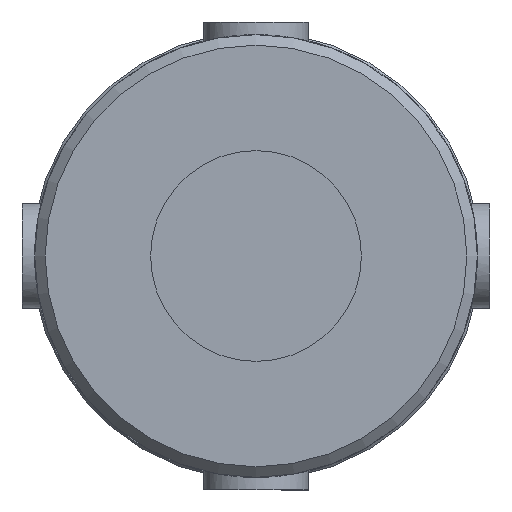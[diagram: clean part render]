
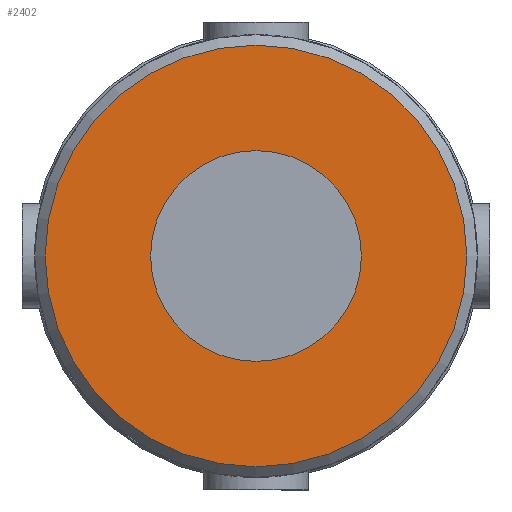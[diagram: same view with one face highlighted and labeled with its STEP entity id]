
A CAD part, left-side view. The second image highlights one B-rep face of the part: STEP entity #2402.
In plain terms, the highlighted planar face has unit normal (-1, 0, 0) as drawn and (0, -1, 0) by its records, which use the part's own axes.
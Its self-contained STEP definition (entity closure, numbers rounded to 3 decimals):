
#160=FACE_BOUND('',#546,.T.);
#243=PLANE('',#2645);
#371=FACE_OUTER_BOUND('',#545,.T.);
#545=EDGE_LOOP('',(#2112));
#546=EDGE_LOOP('',(#2113));
#973=CIRCLE('',#2640,10.);
#975=CIRCLE('',#2643,20.);
#1183=VERTEX_POINT('',#4414);
#1185=VERTEX_POINT('',#4419);
#1500=EDGE_CURVE('',#1183,#1183,#973,.T.);
#1502=EDGE_CURVE('',#1185,#1185,#975,.T.);
#2112=ORIENTED_EDGE('',*,*,#1502,.F.);
#2113=ORIENTED_EDGE('',*,*,#1500,.T.);
#2402=ADVANCED_FACE('',(#371,#160),#243,.F.);
#2640=AXIS2_PLACEMENT_3D('',#4415,#3228,#3229);
#2643=AXIS2_PLACEMENT_3D('',#4420,#3234,#3235);
#2645=AXIS2_PLACEMENT_3D('',#4596,#3242,#3243);
#3228=DIRECTION('center_axis',(0.,1.,0.));
#3229=DIRECTION('ref_axis',(-1.,0.,0.));
#3234=DIRECTION('center_axis',(0.,1.,0.));
#3235=DIRECTION('ref_axis',(1.,0.,0.));
#3242=DIRECTION('center_axis',(0.,1.,0.));
#3243=DIRECTION('ref_axis',(0.,0.,1.));
#4414=CARTESIAN_POINT('',(10.,-51.,0.));
#4415=CARTESIAN_POINT('Origin',(0.,-51.,0.));
#4419=CARTESIAN_POINT('',(-20.,-51.,0.));
#4420=CARTESIAN_POINT('Origin',(0.,-51.,0.));
#4596=CARTESIAN_POINT('Origin',(0.,-51.,0.));
